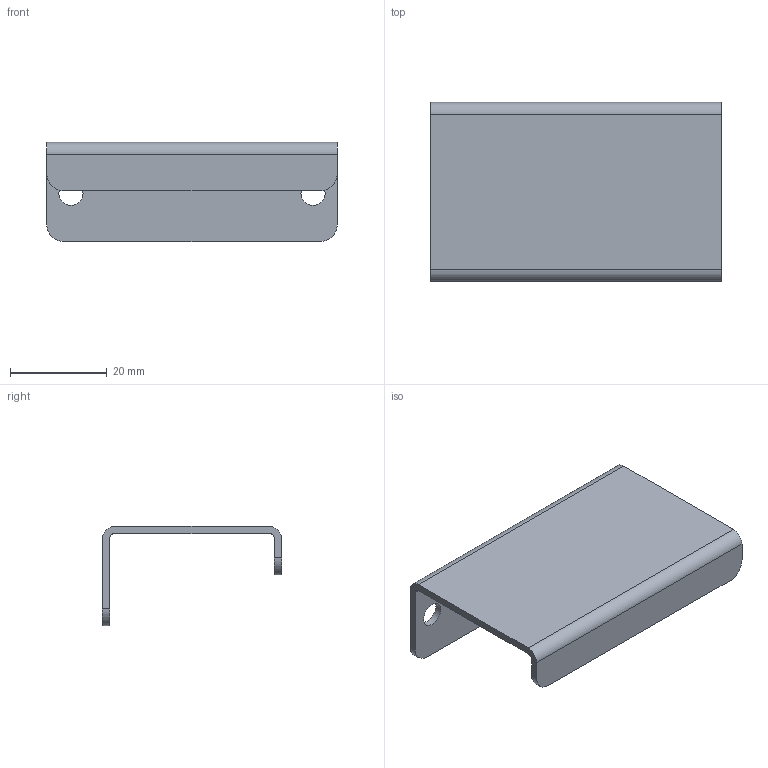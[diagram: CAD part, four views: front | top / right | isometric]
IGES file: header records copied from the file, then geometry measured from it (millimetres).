
Start section: Data from Parasolid IGES Translator 15.0.47, Copyright(c) 2006 Siemens P LM Software. All Rights Reserved.
Global section: file name: 9158400.igs; native system:  By UGS Corp.; preprocessor: XPlus GENERIC/IGES 3.0; author: Noname; organization: Noname; date: 20151204.132606; units: millimetre
Bounding box: 60 x 37 x 20.5 mm (x, y, z)
Surface area: 7867.3 mm2 (no closed solid volume)
Topology: 0 solids, 0 shells, 20 faces, 108 edges, 105 vertices
Faces by surface type: extrusion 10, revolution 10
